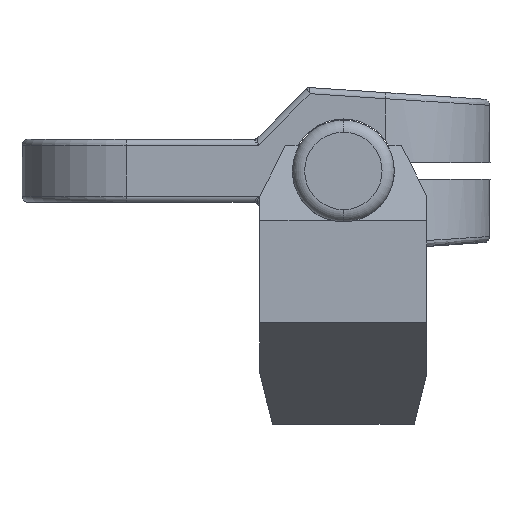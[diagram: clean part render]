
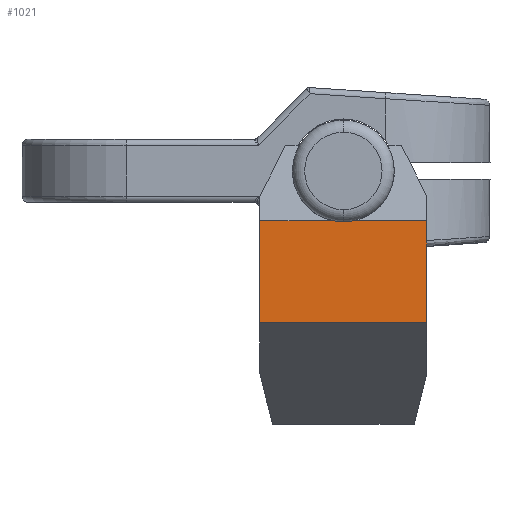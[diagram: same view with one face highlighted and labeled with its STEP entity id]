
A CAD part, front view. The second image highlights one B-rep face of the part: STEP entity #1021.
In plain terms, the highlighted planar face has unit normal (0, -1, 0) as drawn and (-1, 0, 0) by its records, which use the part's own axes.
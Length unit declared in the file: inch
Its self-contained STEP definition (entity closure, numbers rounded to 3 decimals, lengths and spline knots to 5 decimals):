
#326=DIRECTION('',(0.,0.,-1.));
#327=VECTOR('',#326,0.5);
#328=CARTESIAN_POINT('',(-1.17,-0.41,-0.37));
#329=LINE('',#328,#327);
#412=DIRECTION('',(0.,1.,0.));
#413=VECTOR('',#412,0.36025);
#414=CARTESIAN_POINT('',(-1.17,-0.41,-0.37));
#415=LINE('',#414,#413);
#416=DIRECTION('',(0.,0.,-1.));
#417=VECTOR('',#416,0.5);
#418=CARTESIAN_POINT('',(-1.17,0.41,-0.37));
#419=LINE('',#418,#417);
#420=DIRECTION('',(0.,1.,0.));
#421=VECTOR('',#420,0.36025);
#422=CARTESIAN_POINT('',(-1.17,0.04975,-0.37));
#423=LINE('',#422,#421);
#424=CARTESIAN_POINT('',(-1.17,0.,-0.125));
#425=DIRECTION('',(1.,0.,0.));
#426=DIRECTION('',(0.,0.,-1.));
#427=AXIS2_PLACEMENT_3D('',#424,#425,#426);
#429=CARTESIAN_POINT('',(-1.17,0.,-0.125));
#430=DIRECTION('',(1.,0.,0.));
#431=DIRECTION('',(0.,-0.199,-0.98));
#432=AXIS2_PLACEMENT_3D('',#429,#430,#431);
#434=DIRECTION('',(0.,1.,0.));
#435=VECTOR('',#434,0.82);
#436=CARTESIAN_POINT('',(-1.17,-0.41,-0.87));
#437=LINE('',#436,#435);
#518=CARTESIAN_POINT('',(-1.17,0.04975,-0.37));
#680=CARTESIAN_POINT('',(-1.17,0.41,-0.37));
#681=VERTEX_POINT('',#680);
#687=CARTESIAN_POINT('',(-1.17,0.,-0.375));
#689=VERTEX_POINT('',#687);
#694=CARTESIAN_POINT('',(-1.17,-0.41,-0.37));
#695=CARTESIAN_POINT('',(-1.17,-0.04975,-0.37));
#696=VERTEX_POINT('',#694);
#697=VERTEX_POINT('',#695);
#700=CARTESIAN_POINT('',(-1.17,-0.41,-0.87));
#701=CARTESIAN_POINT('',(-1.17,0.41,-0.87));
#702=VERTEX_POINT('',#700);
#703=VERTEX_POINT('',#701);
#745=VERTEX_POINT('',#518);
#1004=CARTESIAN_POINT('',(-1.17,0.41,-0.37));
#1005=DIRECTION('',(1.,0.,0.));
#1006=DIRECTION('',(0.,0.,-1.));
#1007=AXIS2_PLACEMENT_3D('',#1004,#1005,#1006);
#1008=PLANE('',#1007);
#1009=ORIENTED_EDGE('',*,*,#903,.F.);
#1010=ORIENTED_EDGE('',*,*,#851,.T.);
#1012=ORIENTED_EDGE('',*,*,#1011,.T.);
#1013=ORIENTED_EDGE('',*,*,#786,.F.);
#1014=ORIENTED_EDGE('',*,*,#993,.F.);
#1016=ORIENTED_EDGE('',*,*,#1015,.F.);
#1018=ORIENTED_EDGE('',*,*,#1017,.F.);
#1019=EDGE_LOOP('',(#1009,#1010,#1012,#1013,#1014,#1016,#1018));
#1020=FACE_OUTER_BOUND('',#1019,.F.);
#428=CIRCLE('',#427,0.25);
#433=CIRCLE('',#432,0.25);
#786=EDGE_CURVE('',#681,#703,#419,.T.);
#851=EDGE_CURVE('',#696,#702,#329,.T.);
#903=EDGE_CURVE('',#696,#697,#415,.T.);
#993=EDGE_CURVE('',#745,#681,#423,.T.);
#1011=EDGE_CURVE('',#702,#703,#437,.T.);
#1015=EDGE_CURVE('',#689,#745,#428,.T.);
#1017=EDGE_CURVE('',#697,#689,#433,.T.);
#1021=ADVANCED_FACE('',(#1020),#1008,.F.);
